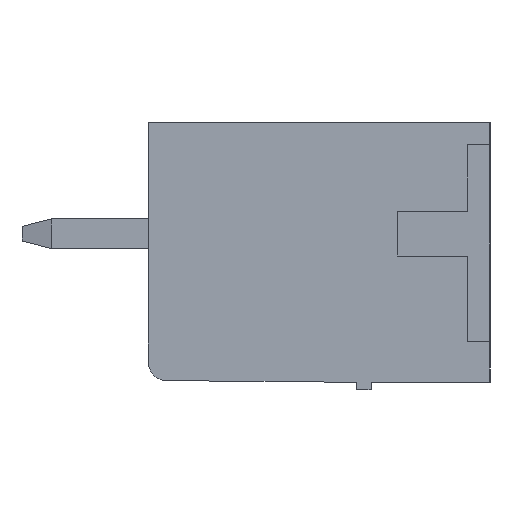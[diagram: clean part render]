
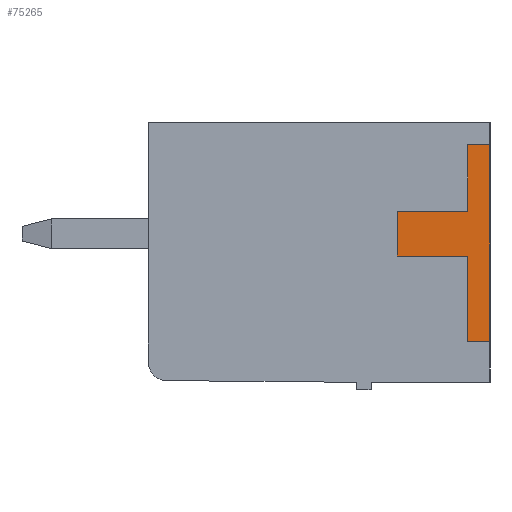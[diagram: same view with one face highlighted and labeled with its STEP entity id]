
A CAD part, left-side view. The second image highlights one B-rep face of the part: STEP entity #75265.
In plain terms, the highlighted planar face has unit normal (-1, 0, 0).
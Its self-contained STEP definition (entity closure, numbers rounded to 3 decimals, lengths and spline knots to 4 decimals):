
#100 = PLANE('',#101);
#101 = AXIS2_PLACEMENT_3D('',#102,#103,#104);
#102 = CARTESIAN_POINT('',(0.,0.,7.));
#103 = DIRECTION('',(0.,-1.,0.));
#104 = DIRECTION('',(0.,0.,-1.));
#128 = PLANE('',#129);
#129 = AXIS2_PLACEMENT_3D('',#130,#131,#132);
#130 = CARTESIAN_POINT('',(0.,0.,6.4));
#131 = DIRECTION('',(0.,0.,1.));
#132 = DIRECTION('',(0.,1.,0.));
#156 = PLANE('',#157);
#157 = AXIS2_PLACEMENT_3D('',#158,#159,#160);
#158 = CARTESIAN_POINT('',(0.,0.6,6.4));
#159 = DIRECTION('',(0.,1.,0.));
#160 = DIRECTION('',(0.,0.,-1.));
#184 = PLANE('',#185);
#185 = AXIS2_PLACEMENT_3D('',#186,#187,#188);
#186 = CARTESIAN_POINT('',(0.,0.6,4.6));
#187 = DIRECTION('',(0.,0.,1.));
#188 = DIRECTION('',(0.,1.,0.));
#212 = PLANE('',#213);
#213 = AXIS2_PLACEMENT_3D('',#214,#215,#216);
#214 = CARTESIAN_POINT('',(0.,2.5,4.6));
#215 = DIRECTION('',(0.,1.,0.));
#216 = DIRECTION('',(0.,0.,-1.));
#240 = PLANE('',#241);
#241 = AXIS2_PLACEMENT_3D('',#242,#243,#244);
#242 = CARTESIAN_POINT('',(0.,2.5,3.4));
#243 = DIRECTION('',(0.,0.,-1.));
#244 = DIRECTION('',(0.,-1.,0.));
#268 = PLANE('',#269);
#269 = AXIS2_PLACEMENT_3D('',#270,#271,#272);
#270 = CARTESIAN_POINT('',(0.,0.6,3.4));
#271 = DIRECTION('',(0.,1.,0.));
#272 = DIRECTION('',(0.,0.,-1.));
#296 = PLANE('',#297);
#297 = AXIS2_PLACEMENT_3D('',#298,#299,#300);
#298 = CARTESIAN_POINT('',(0.,0.6,1.1));
#299 = DIRECTION('',(0.,0.,-1.));
#300 = DIRECTION('',(0.,-1.,0.));
#9190 = VERTEX_POINT('',#9191);
#9191 = CARTESIAN_POINT('',(-0.2,0.,1.1));
#9212 = EDGE_CURVE('',#9190,#9213,#9215,.T.);
#9213 = VERTEX_POINT('',#9214);
#9214 = CARTESIAN_POINT('',(-0.2,0.,6.4));
#9215 = SURFACE_CURVE('',#9216,(#9220,#9227),.PCURVE_S1.);
#9216 = LINE('',#9217,#9218);
#9217 = CARTESIAN_POINT('',(-0.2,0.,1.1));
#9218 = VECTOR('',#9219,1.);
#9219 = DIRECTION('',(0.,0.,1.));
#9220 = PCURVE('',#100,#9221);
#9221 = DEFINITIONAL_REPRESENTATION('',(#9222),#9226);
#9222 = LINE('',#9223,#9224);
#9223 = CARTESIAN_POINT('',(5.9,-0.2));
#9224 = VECTOR('',#9225,1.);
#9225 = DIRECTION('',(-1.,0.));
#9226 = ( GEOMETRIC_REPRESENTATION_CONTEXT(2) 
PARAMETRIC_REPRESENTATION_CONTEXT() REPRESENTATION_CONTEXT('2D SPACE',''
  ) );
#9227 = PCURVE('',#9228,#9233);
#9228 = PLANE('',#9229);
#9229 = AXIS2_PLACEMENT_3D('',#9230,#9231,#9232);
#9230 = CARTESIAN_POINT('',(-0.2,0.,0.));
#9231 = DIRECTION('',(-1.,0.,0.));
#9232 = DIRECTION('',(0.,0.,1.));
#9233 = DEFINITIONAL_REPRESENTATION('',(#9234),#9238);
#9234 = LINE('',#9235,#9236);
#9235 = CARTESIAN_POINT('',(1.1,0.));
#9236 = VECTOR('',#9237,1.);
#9237 = DIRECTION('',(1.,0.));
#9238 = ( GEOMETRIC_REPRESENTATION_CONTEXT(2) 
PARAMETRIC_REPRESENTATION_CONTEXT() REPRESENTATION_CONTEXT('2D SPACE',''
  ) );
#74950 = VERTEX_POINT('',#74951);
#74951 = CARTESIAN_POINT('',(-0.2,0.6,1.1));
#74972 = EDGE_CURVE('',#74950,#9190,#74973,.T.);
#74973 = SURFACE_CURVE('',#74974,(#74978,#74985),.PCURVE_S1.);
#74974 = LINE('',#74975,#74976);
#74975 = CARTESIAN_POINT('',(-0.2,0.6,1.1));
#74976 = VECTOR('',#74977,1.);
#74977 = DIRECTION('',(0.,-1.,0.));
#74978 = PCURVE('',#296,#74979);
#74979 = DEFINITIONAL_REPRESENTATION('',(#74980),#74984);
#74980 = LINE('',#74981,#74982);
#74981 = CARTESIAN_POINT('',(0.,0.2));
#74982 = VECTOR('',#74983,1.);
#74983 = DIRECTION('',(1.,0.));
#74984 = ( GEOMETRIC_REPRESENTATION_CONTEXT(2) 
PARAMETRIC_REPRESENTATION_CONTEXT() REPRESENTATION_CONTEXT('2D SPACE',''
  ) );
#74985 = PCURVE('',#9228,#74986);
#74986 = DEFINITIONAL_REPRESENTATION('',(#74987),#74991);
#74987 = LINE('',#74988,#74989);
#74988 = CARTESIAN_POINT('',(1.1,0.6));
#74989 = VECTOR('',#74990,1.);
#74990 = DIRECTION('',(0.,-1.));
#74991 = ( GEOMETRIC_REPRESENTATION_CONTEXT(2) 
PARAMETRIC_REPRESENTATION_CONTEXT() REPRESENTATION_CONTEXT('2D SPACE',''
  ) );
#74999 = VERTEX_POINT('',#75000);
#75000 = CARTESIAN_POINT('',(-0.2,0.6,3.4));
#75021 = EDGE_CURVE('',#74999,#74950,#75022,.T.);
#75022 = SURFACE_CURVE('',#75023,(#75027,#75034),.PCURVE_S1.);
#75023 = LINE('',#75024,#75025);
#75024 = CARTESIAN_POINT('',(-0.2,0.6,3.4));
#75025 = VECTOR('',#75026,1.);
#75026 = DIRECTION('',(0.,0.,-1.));
#75027 = PCURVE('',#268,#75028);
#75028 = DEFINITIONAL_REPRESENTATION('',(#75029),#75033);
#75029 = LINE('',#75030,#75031);
#75030 = CARTESIAN_POINT('',(0.,0.2));
#75031 = VECTOR('',#75032,1.);
#75032 = DIRECTION('',(1.,0.));
#75033 = ( GEOMETRIC_REPRESENTATION_CONTEXT(2) 
PARAMETRIC_REPRESENTATION_CONTEXT() REPRESENTATION_CONTEXT('2D SPACE',''
  ) );
#75034 = PCURVE('',#9228,#75035);
#75035 = DEFINITIONAL_REPRESENTATION('',(#75036),#75040);
#75036 = LINE('',#75037,#75038);
#75037 = CARTESIAN_POINT('',(3.4,0.6));
#75038 = VECTOR('',#75039,1.);
#75039 = DIRECTION('',(-1.,0.));
#75040 = ( GEOMETRIC_REPRESENTATION_CONTEXT(2) 
PARAMETRIC_REPRESENTATION_CONTEXT() REPRESENTATION_CONTEXT('2D SPACE',''
  ) );
#75048 = VERTEX_POINT('',#75049);
#75049 = CARTESIAN_POINT('',(-0.2,2.5,3.4));
#75070 = EDGE_CURVE('',#75048,#74999,#75071,.T.);
#75071 = SURFACE_CURVE('',#75072,(#75076,#75083),.PCURVE_S1.);
#75072 = LINE('',#75073,#75074);
#75073 = CARTESIAN_POINT('',(-0.2,2.5,3.4));
#75074 = VECTOR('',#75075,1.);
#75075 = DIRECTION('',(0.,-1.,0.));
#75076 = PCURVE('',#240,#75077);
#75077 = DEFINITIONAL_REPRESENTATION('',(#75078),#75082);
#75078 = LINE('',#75079,#75080);
#75079 = CARTESIAN_POINT('',(0.,0.2));
#75080 = VECTOR('',#75081,1.);
#75081 = DIRECTION('',(1.,0.));
#75082 = ( GEOMETRIC_REPRESENTATION_CONTEXT(2) 
PARAMETRIC_REPRESENTATION_CONTEXT() REPRESENTATION_CONTEXT('2D SPACE',''
  ) );
#75083 = PCURVE('',#9228,#75084);
#75084 = DEFINITIONAL_REPRESENTATION('',(#75085),#75089);
#75085 = LINE('',#75086,#75087);
#75086 = CARTESIAN_POINT('',(3.4,2.5));
#75087 = VECTOR('',#75088,1.);
#75088 = DIRECTION('',(0.,-1.));
#75089 = ( GEOMETRIC_REPRESENTATION_CONTEXT(2) 
PARAMETRIC_REPRESENTATION_CONTEXT() REPRESENTATION_CONTEXT('2D SPACE',''
  ) );
#75097 = VERTEX_POINT('',#75098);
#75098 = CARTESIAN_POINT('',(-0.2,2.5,4.6));
#75119 = EDGE_CURVE('',#75097,#75048,#75120,.T.);
#75120 = SURFACE_CURVE('',#75121,(#75125,#75132),.PCURVE_S1.);
#75121 = LINE('',#75122,#75123);
#75122 = CARTESIAN_POINT('',(-0.2,2.5,4.6));
#75123 = VECTOR('',#75124,1.);
#75124 = DIRECTION('',(0.,0.,-1.));
#75125 = PCURVE('',#212,#75126);
#75126 = DEFINITIONAL_REPRESENTATION('',(#75127),#75131);
#75127 = LINE('',#75128,#75129);
#75128 = CARTESIAN_POINT('',(0.,0.2));
#75129 = VECTOR('',#75130,1.);
#75130 = DIRECTION('',(1.,0.));
#75131 = ( GEOMETRIC_REPRESENTATION_CONTEXT(2) 
PARAMETRIC_REPRESENTATION_CONTEXT() REPRESENTATION_CONTEXT('2D SPACE',''
  ) );
#75132 = PCURVE('',#9228,#75133);
#75133 = DEFINITIONAL_REPRESENTATION('',(#75134),#75138);
#75134 = LINE('',#75135,#75136);
#75135 = CARTESIAN_POINT('',(4.6,2.5));
#75136 = VECTOR('',#75137,1.);
#75137 = DIRECTION('',(-1.,0.));
#75138 = ( GEOMETRIC_REPRESENTATION_CONTEXT(2) 
PARAMETRIC_REPRESENTATION_CONTEXT() REPRESENTATION_CONTEXT('2D SPACE',''
  ) );
#75146 = VERTEX_POINT('',#75147);
#75147 = CARTESIAN_POINT('',(-0.2,0.6,4.6));
#75168 = EDGE_CURVE('',#75146,#75097,#75169,.T.);
#75169 = SURFACE_CURVE('',#75170,(#75174,#75181),.PCURVE_S1.);
#75170 = LINE('',#75171,#75172);
#75171 = CARTESIAN_POINT('',(-0.2,0.6,4.6));
#75172 = VECTOR('',#75173,1.);
#75173 = DIRECTION('',(0.,1.,0.));
#75174 = PCURVE('',#184,#75175);
#75175 = DEFINITIONAL_REPRESENTATION('',(#75176),#75180);
#75176 = LINE('',#75177,#75178);
#75177 = CARTESIAN_POINT('',(0.,0.2));
#75178 = VECTOR('',#75179,1.);
#75179 = DIRECTION('',(1.,0.));
#75180 = ( GEOMETRIC_REPRESENTATION_CONTEXT(2) 
PARAMETRIC_REPRESENTATION_CONTEXT() REPRESENTATION_CONTEXT('2D SPACE',''
  ) );
#75181 = PCURVE('',#9228,#75182);
#75182 = DEFINITIONAL_REPRESENTATION('',(#75183),#75187);
#75183 = LINE('',#75184,#75185);
#75184 = CARTESIAN_POINT('',(4.6,0.6));
#75185 = VECTOR('',#75186,1.);
#75186 = DIRECTION('',(0.,1.));
#75187 = ( GEOMETRIC_REPRESENTATION_CONTEXT(2) 
PARAMETRIC_REPRESENTATION_CONTEXT() REPRESENTATION_CONTEXT('2D SPACE',''
  ) );
#75195 = VERTEX_POINT('',#75196);
#75196 = CARTESIAN_POINT('',(-0.2,0.6,6.4));
#75217 = EDGE_CURVE('',#75195,#75146,#75218,.T.);
#75218 = SURFACE_CURVE('',#75219,(#75223,#75230),.PCURVE_S1.);
#75219 = LINE('',#75220,#75221);
#75220 = CARTESIAN_POINT('',(-0.2,0.6,6.4));
#75221 = VECTOR('',#75222,1.);
#75222 = DIRECTION('',(0.,0.,-1.));
#75223 = PCURVE('',#156,#75224);
#75224 = DEFINITIONAL_REPRESENTATION('',(#75225),#75229);
#75225 = LINE('',#75226,#75227);
#75226 = CARTESIAN_POINT('',(0.,0.2));
#75227 = VECTOR('',#75228,1.);
#75228 = DIRECTION('',(1.,0.));
#75229 = ( GEOMETRIC_REPRESENTATION_CONTEXT(2) 
PARAMETRIC_REPRESENTATION_CONTEXT() REPRESENTATION_CONTEXT('2D SPACE',''
  ) );
#75230 = PCURVE('',#9228,#75231);
#75231 = DEFINITIONAL_REPRESENTATION('',(#75232),#75236);
#75232 = LINE('',#75233,#75234);
#75233 = CARTESIAN_POINT('',(6.4,0.6));
#75234 = VECTOR('',#75235,1.);
#75235 = DIRECTION('',(-1.,0.));
#75236 = ( GEOMETRIC_REPRESENTATION_CONTEXT(2) 
PARAMETRIC_REPRESENTATION_CONTEXT() REPRESENTATION_CONTEXT('2D SPACE',''
  ) );
#75244 = EDGE_CURVE('',#9213,#75195,#75245,.T.);
#75245 = SURFACE_CURVE('',#75246,(#75250,#75257),.PCURVE_S1.);
#75246 = LINE('',#75247,#75248);
#75247 = CARTESIAN_POINT('',(-0.2,0.,6.4));
#75248 = VECTOR('',#75249,1.);
#75249 = DIRECTION('',(0.,1.,0.));
#75250 = PCURVE('',#128,#75251);
#75251 = DEFINITIONAL_REPRESENTATION('',(#75252),#75256);
#75252 = LINE('',#75253,#75254);
#75253 = CARTESIAN_POINT('',(0.,0.2));
#75254 = VECTOR('',#75255,1.);
#75255 = DIRECTION('',(1.,0.));
#75256 = ( GEOMETRIC_REPRESENTATION_CONTEXT(2) 
PARAMETRIC_REPRESENTATION_CONTEXT() REPRESENTATION_CONTEXT('2D SPACE',''
  ) );
#75257 = PCURVE('',#9228,#75258);
#75258 = DEFINITIONAL_REPRESENTATION('',(#75259),#75263);
#75259 = LINE('',#75260,#75261);
#75260 = CARTESIAN_POINT('',(6.4,0.));
#75261 = VECTOR('',#75262,1.);
#75262 = DIRECTION('',(0.,1.));
#75263 = ( GEOMETRIC_REPRESENTATION_CONTEXT(2) 
PARAMETRIC_REPRESENTATION_CONTEXT() REPRESENTATION_CONTEXT('2D SPACE',''
  ) );
#75265 = ADVANCED_FACE('',(#75266),#9228,.T.);
#75266 = FACE_BOUND('',#75267,.F.);
#75267 = EDGE_LOOP('',(#75268,#75269,#75270,#75271,#75272,#75273,#75274,
    #75275));
#75268 = ORIENTED_EDGE('',*,*,#75244,.F.);
#75269 = ORIENTED_EDGE('',*,*,#9212,.F.);
#75270 = ORIENTED_EDGE('',*,*,#74972,.F.);
#75271 = ORIENTED_EDGE('',*,*,#75021,.F.);
#75272 = ORIENTED_EDGE('',*,*,#75070,.F.);
#75273 = ORIENTED_EDGE('',*,*,#75119,.F.);
#75274 = ORIENTED_EDGE('',*,*,#75168,.F.);
#75275 = ORIENTED_EDGE('',*,*,#75217,.F.);
